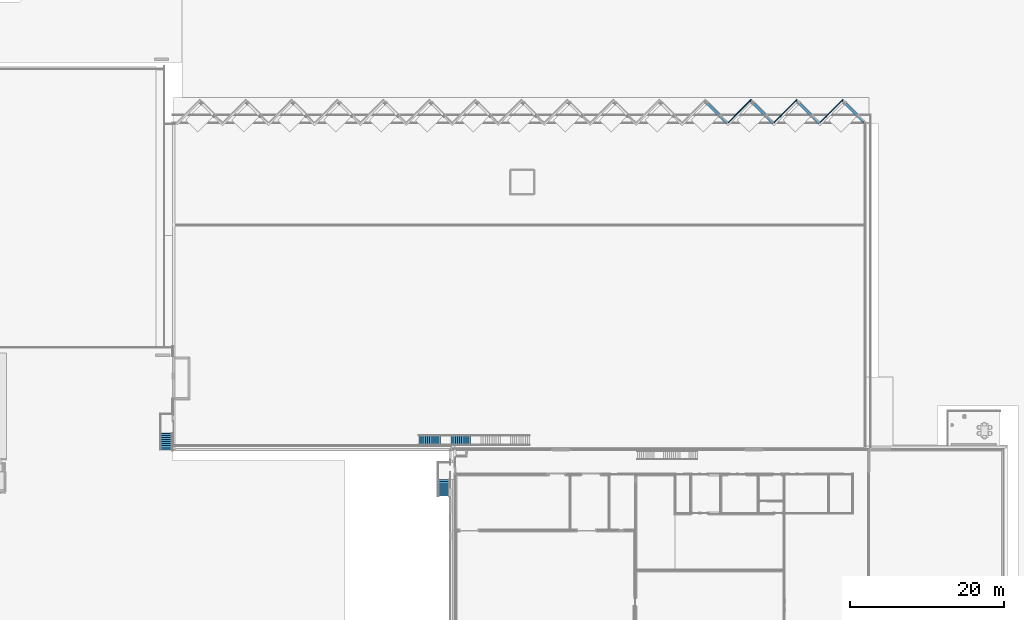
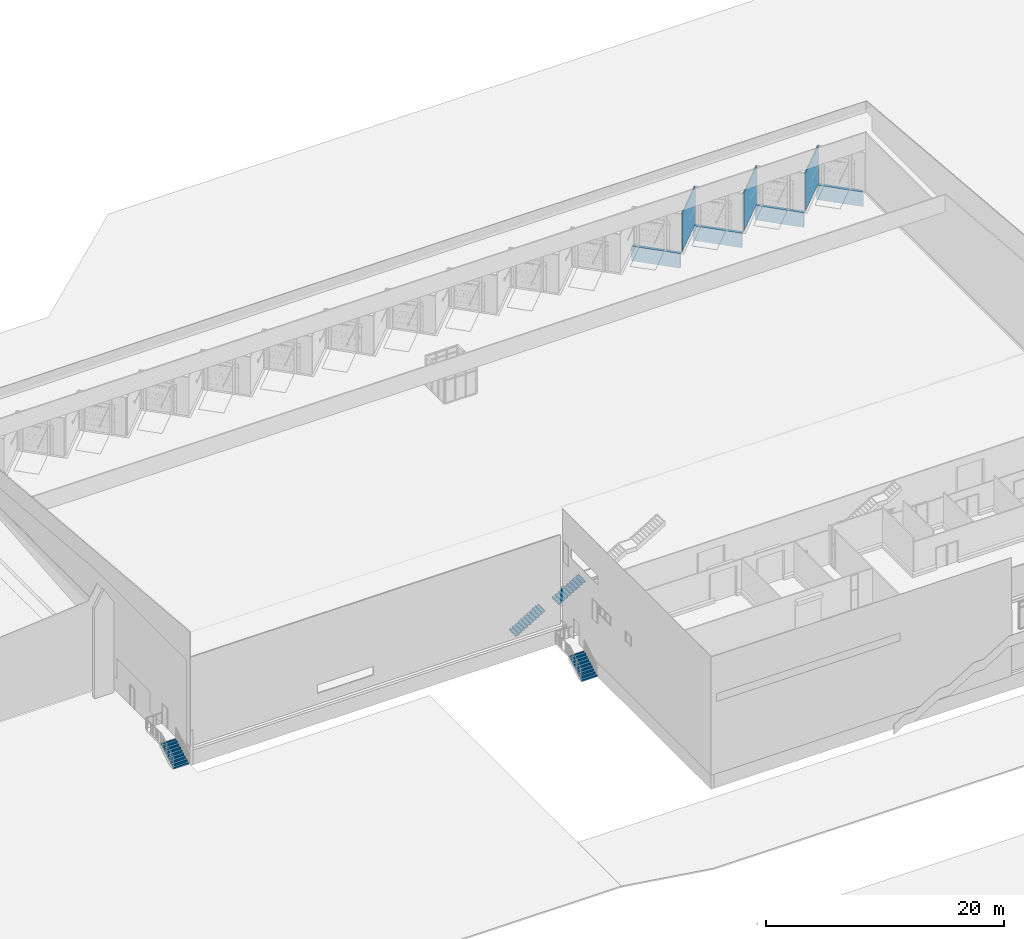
# One storey, part 53 of 64: 7 walls, 4 stair flights, 3 elements without a shape of their own.
"""IFC2X3 building model written with IfcOpenShell, lengths in millimetres."""

from ifc_helpers import new_model, entity, si_unit, converted_unit, derived_unit, direction, frame, frame_2d, origin, origin_2d_with_axis, place, context, subcontext, project, spatial, polyline, rectangle, outline, extrude, material, layer, layer_set, layer_usage, type_object, element, aggregate, save


model = new_model("IFC2X3")

# Units and contexts
model_context = context("Model", 3, precision=0.01, world=origin(), true_north=direction((4.05803320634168e-15, -1.0)))
body_context = subcontext(model_context, "Body", "Model", "MODEL_VIEW")
ifc_project = project(units=[si_unit("LENGTHUNIT", "METRE", prefix="MILLI"), si_unit("AREAUNIT", "SQUARE_METRE"), si_unit("VOLUMEUNIT", "CUBIC_METRE"), converted_unit("PLANEANGLEUNIT", "DEGREE", entity("IfcRatioMeasure", 0.0174532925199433), si_unit("PLANEANGLEUNIT", "RADIAN"), dimensions=[0, 0, 0, 0, 0, 0, 0]), si_unit("MASSUNIT", "GRAM", prefix="KILO"), derived_unit("MASSDENSITYUNIT", [(si_unit("MASSUNIT", "GRAM", prefix="KILO"), 1), (si_unit("LENGTHUNIT", "METRE"), -3)]), si_unit("TIMEUNIT", "SECOND"), si_unit("FREQUENCYUNIT", "HERTZ"), si_unit("THERMODYNAMICTEMPERATUREUNIT", "DEGREE_CELSIUS"), derived_unit("THERMALTRANSMITTANCEUNIT", [(si_unit("MASSUNIT", "GRAM", prefix="KILO"), 1), (si_unit("THERMODYNAMICTEMPERATUREUNIT", "KELVIN"), -1), (si_unit("TIMEUNIT", "SECOND"), -3)]), derived_unit("VOLUMETRICFLOWRATEUNIT", [(si_unit("LENGTHUNIT", "METRE"), 3), (si_unit("TIMEUNIT", "SECOND"), -1)]), si_unit("ELECTRICCURRENTUNIT", "AMPERE"), si_unit("ELECTRICVOLTAGEUNIT", "VOLT"), si_unit("POWERUNIT", "WATT"), si_unit("FORCEUNIT", "NEWTON", prefix="KILO"), si_unit("ILLUMINANCEUNIT", "LUX"), si_unit("LUMINOUSFLUXUNIT", "LUMEN"), si_unit("LUMINOUSINTENSITYUNIT", "CANDELA"), derived_unit("USERDEFINED", [(si_unit("MASSUNIT", "GRAM", prefix="KILO"), -1), (si_unit("LENGTHUNIT", "METRE"), -2), (si_unit("TIMEUNIT", "SECOND"), 3), (si_unit("LUMINOUSFLUXUNIT", "LUMEN"), 1)]), derived_unit("LINEARVELOCITYUNIT", [(si_unit("LENGTHUNIT", "METRE"), 1), (si_unit("TIMEUNIT", "SECOND"), -1)]), si_unit("PRESSUREUNIT", "PASCAL"), derived_unit("USERDEFINED", [(si_unit("LENGTHUNIT", "METRE"), -2), (si_unit("MASSUNIT", "GRAM", prefix="KILO"), 1), (si_unit("TIMEUNIT", "SECOND"), -2)])], contexts=[model_context])

# Site, building, storey
site_placement = place(None, frame((927466.849349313, 583801.882853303, 0.0), z_axis=(0.0, 0.0, 1.0), x_axis=(-1.0, 0.0, 0.0)))
site = spatial("IfcSite", under=ifc_project, at=site_placement, Name="Surface", CompositionType="ELEMENT")
building_placement = place(site_placement, origin())
building = spatial("IfcBuilding", under=site, at=building_placement, CompositionType="ELEMENT")
storey_placement = place(building_placement, frame((0.0, 0.0, 44170.0)))
storey = spatial("IfcBuildingStorey", under=building, at=storey_placement, Name="Ground FFL", CompositionType="ELEMENT", Elevation=44170.0)

# Walls
ifc_material_1 = material(Name="Isopenal")
ifc_layer_1 = layer(ifc_material_1, 100.0)
ifc_layer_set_1 = layer_set([ifc_layer_1], Name="Basic Wall:Isopanel")
ifc_layer_usage_1 = layer_usage(ifc_layer_set_1, "AXIS2", "POSITIVE", -50.0)
wall_type_1 = type_object("IfcWallType", Name="Basic Wall:Isopanel", PredefinedType="STANDARD", material=ifc_layer_set_1)
wall_1_placement = place(storey_placement, frame((-119989.085156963, -33638.9669325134, 0.0), z_axis=(0.0, 0.0, 1.0), x_axis=(0.707106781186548, 0.707106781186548, 0.0)))
element("IfcWallStandardCase", 1, at=wall_1_placement, inside=storey, type_object=wall_type_1, material=ifc_layer_usage_1, Name="Basic Wall:Isopanel", ObjectType="Basic Wall:Isopanel", context=body_context, shape_type="SweptSolid", body=[
    extrude(rectangle(XDim=4232.26267936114, YDim=99.9999999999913, at=frame_2d((2116.13133968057, 3.5527136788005e-15), x_axis=(-1.0, 0.0))), origin(), (0.0, 0.0, 1.0), 3910.35154955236),
])
ifc_layer_usage_2 = layer_usage(ifc_layer_set_1, "AXIS2", "POSITIVE", -50.0)
wall_2_placement = place(storey_placement, frame((-125974.408437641, -33638.9669325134, 0.0), z_axis=(0.0, 0.0, 1.0), x_axis=(0.707106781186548, 0.707106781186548, 0.0)))
element("IfcWallStandardCase", 2, at=wall_2_placement, inside=storey, type_object=wall_type_1, material=ifc_layer_usage_2, Name="Basic Wall:Isopanel", ObjectType="Basic Wall:Isopanel", context=body_context, shape_type="SweptSolid", body=[
    extrude(rectangle(XDim=4232.26267936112, YDim=99.9999999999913, at=frame_2d((2116.13133968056, 3.5527136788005e-15), x_axis=(-1.0, 0.0))), origin(), (0.0, 0.0, 1.0), 3910.35154955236),
])
ifc_layer_usage_3 = layer_usage(ifc_layer_set_1, "AXIS2", "POSITIVE", -50.0)
wall_3_placement = place(storey_placement, frame((-131959.731718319, -33638.9669325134, 0.0), z_axis=(0.0, 0.0, 1.0), x_axis=(0.707106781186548, 0.707106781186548, 0.0)))
element("IfcWallStandardCase", 3, at=wall_3_placement, inside=storey, type_object=wall_type_1, material=ifc_layer_usage_3, Name="Basic Wall:Isopanel", ObjectType="Basic Wall:Isopanel", context=body_context, shape_type="SweptSolid", body=[
    extrude(rectangle(XDim=4232.26267936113, YDim=99.9999999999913, at=frame_2d((2116.13133968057, -4.60076421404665e-12), x_axis=(-1.0, 0.0))), origin(), (0.0, 0.0, 1.0), 3910.35154955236),
])
ifc_material_2 = material(Name="conc bund")
ifc_layer_2 = layer(ifc_material_2, 300.0)
ifc_layer_set_2 = layer_set([ifc_layer_2], Name="Basic Wall:300 bund wall")
ifc_layer_usage_4 = layer_usage(ifc_layer_set_2, "AXIS2", "NEGATIVE", 150.0)
wall_type_2 = type_object("IfcWallType", Name="Basic Wall:300 bund wall", PredefinedType="STANDARD", material=ifc_layer_set_2)
wall_4_placement = place(storey_placement, frame((-131818.310362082, -33568.2562543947, -1500.0), z_axis=(0.0, 0.0, 1.0), x_axis=(-0.70710678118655, 0.707106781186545, 0.0)))
element("IfcWallStandardCase", 4, at=wall_4_placement, inside=storey, type_object=wall_type_2, material=ifc_layer_usage_4, Name="Basic Wall:300 bund wall", ObjectType="Basic Wall:300 bund wall", context=body_context, shape_type="SweptSolid", body=[
    extrude(outline(polyline([(-1817.86127473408, -1648.15564724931), (-1393.59720602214, -1648.15564724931), (1282.61819460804, 1028.05975338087), (1070.48616025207, 1240.19178773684), (858.354125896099, 1028.05975338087), (-1817.86127473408, -1648.15564724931)])), frame((1633.89604616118, -30.0, 0.0), z_axis=(0.0, 0.0, 1.0), x_axis=(-0.707106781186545, 0.70710678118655, 0.0)), (0.0, 0.0, 1.0), 1500.0),
])
ifc_layer_usage_5 = layer_usage(ifc_layer_set_2, "AXIS2", "NEGATIVE", 150.0)
wall_5_placement = place(storey_placement, frame((-125832.987081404, -33568.2562543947, -1500.0), z_axis=(0.0, 0.0, 1.0), x_axis=(-0.70710678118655, 0.707106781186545, 0.0)))
element("IfcWallStandardCase", 5, at=wall_5_placement, inside=storey, type_object=wall_type_2, material=ifc_layer_usage_5, Name="Basic Wall:300 bund wall", ObjectType="Basic Wall:300 bund wall", context=body_context, shape_type="SweptSolid", body=[
    extrude(rectangle(XDim=4232.26267936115, YDim=299.999999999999, at=frame_2d((2116.13133968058, 5.61328761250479e-12), x_axis=(-1.0, 0.0))), origin(), (0.0, 0.0, 1.0), 1500.00000000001),
])
ifc_layer_usage_6 = layer_usage(ifc_layer_set_2, "AXIS2", "NEGATIVE", 150.0)
wall_6_placement = place(storey_placement, frame((-119847.663800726, -33568.2562543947, -1500.0), z_axis=(0.0, 0.0, 1.0), x_axis=(-0.70710678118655, 0.707106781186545, 0.0)))
element("IfcWallStandardCase", 6, at=wall_6_placement, inside=storey, type_object=wall_type_2, material=ifc_layer_usage_6, Name="Basic Wall:300 bund wall", ObjectType="Basic Wall:300 bund wall", context=body_context, shape_type="SweptSolid", body=[
    extrude(rectangle(XDim=4232.26267936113, YDim=299.999999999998, at=frame_2d((2116.13133968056, -6.60804744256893e-12), x_axis=(-1.0, 0.0))), origin(), (0.0, 0.0, 1.0), 1500.00000000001),
])
ifc_layer_usage_7 = layer_usage(ifc_layer_set_2, "AXIS2", "NEGATIVE", 150.0)
wall_7_placement = place(storey_placement, frame((-113862.340520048, -33568.2562543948, -1500.0), z_axis=(0.0, 0.0, 1.0), x_axis=(-0.70710678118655, 0.707106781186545, 0.0)))
element("IfcWallStandardCase", 7, at=wall_7_placement, inside=storey, type_object=wall_type_2, material=ifc_layer_usage_7, Name="Basic Wall:300 bund wall", ObjectType="Basic Wall:300 bund wall", context=body_context, shape_type="SweptSolid", body=[
    extrude(rectangle(XDim=4232.26267936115, YDim=299.999999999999, at=frame_2d((2116.13133968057, -6.60804744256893e-12), x_axis=(-1.0, 0.0))), origin(), (0.0, 0.0, 1.0), 1500.00000000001),
])

# Stair, stair flight
stair_1_placement = place(storey_placement, origin())
stair_1 = element("IfcStair", 8, at=stair_1_placement, inside=storey, Name="Assembled Stair:Stair", ObjectType="Assembled Stair:170mm max riser 270mm going", ShapeType="NOTDEFINED")
stair_flight_1_placement = place(stair_1_placement, origin())
stair_flight_1 = element("IfcStairFlight", 9, at=stair_flight_1_placement, Name="Assembled Stair:Stair:371358 Run 1", ObjectType="Assembled Stair:170mm max riser 270mm going", NumberOfRiser=9, NumberOfTreads=8, RiserHeight=0.510352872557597, TreadLength=0.885826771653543, context=body_context, shape_type="SweptSolid", body=[
    extrude(rectangle(XDim=1500.00000000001, YDim=12.4999999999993, at=frame_2d((0.0, -1.0831335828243e-12), x_axis=(1.0, 0.0))), frame((-43799.0423298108, 11970.9308321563, -1400.0)), (0.0, 0.0, 1.0), 105.55555555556),
    extrude(rectangle(XDim=269.999999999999, YDim=1500.00000000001, at=origin_2d_with_axis()), frame((-43799.0423298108, 11842.1808321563, -1294.44444444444), z_axis=(0.0, 0.0, 1.0), x_axis=(0.0, 1.0, 0.0)), (0.0, 0.0, 1.0), 49.9999999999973),
    extrude(rectangle(XDim=1500.00000000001, YDim=12.4999999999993, at=frame_2d((0.0, -1.0831335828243e-12), x_axis=(1.0, 0.0))), frame((-43799.0423298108, 11700.9308321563, -1294.44444444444)), (0.0, 0.0, 1.0), 155.555555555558),
    extrude(rectangle(XDim=270.000000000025, YDim=1500.00000000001, at=frame_2d((-1.29887212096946e-11, 0.0), x_axis=(1.0, 0.0))), frame((-43799.0423298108, 11572.1808321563, -1138.88888888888), z_axis=(0.0, 0.0, 1.0), x_axis=(0.0, 1.0, 0.0)), (0.0, 0.0, 1.0), 49.9999999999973),
    extrude(rectangle(XDim=1500.00000000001, YDim=12.4999999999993, at=frame_2d((0.0, -1.0831335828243e-12), x_axis=(1.0, 0.0))), frame((-43799.0423298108, 11430.9308321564, -1138.88888888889)), (0.0, 0.0, 1.0), 155.555555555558),
    extrude(rectangle(XDim=270.000000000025, YDim=1500.00000000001, at=frame_2d((-1.08286712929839e-11, 0.0), x_axis=(1.0, 0.0))), frame((-43799.0423298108, 11302.1808321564, -983.333333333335), z_axis=(0.0, 0.0, 1.0), x_axis=(0.0, 1.0, 0.0)), (0.0, 0.0, 1.0), 49.9999999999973),
    extrude(rectangle(XDim=1500.00000000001, YDim=12.4999999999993, at=frame_2d((0.0, -1.0831335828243e-12), x_axis=(1.0, 0.0))), frame((-43799.0423298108, 11160.9308321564, -983.333333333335)), (0.0, 0.0, 1.0), 155.555555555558),
    extrude(rectangle(XDim=270.000000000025, YDim=1500.00000000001, at=frame_2d((-1.08286712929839e-11, 0.0), x_axis=(1.0, 0.0))), frame((-43799.0423298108, 11032.1808321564, -827.777777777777), z_axis=(0.0, 0.0, 1.0), x_axis=(0.0, 1.0, 0.0)), (0.0, 0.0, 1.0), 49.9999999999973),
    extrude(rectangle(XDim=1500.00000000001, YDim=12.4999999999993, at=frame_2d((0.0, -1.0831335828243e-12), x_axis=(1.0, 0.0))), frame((-43799.0423298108, 10890.9308321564, -827.777777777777)), (0.0, 0.0, 1.0), 155.555555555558),
    extrude(rectangle(XDim=270.000000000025, YDim=1500.00000000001, at=frame_2d((-1.29887212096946e-11, 0.0), x_axis=(1.0, 0.0))), frame((-43799.0423298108, 10762.1808321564, -672.22222222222), z_axis=(0.0, 0.0, 1.0), x_axis=(0.0, 1.0, 0.0)), (0.0, 0.0, 1.0), 49.9999999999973),
    extrude(rectangle(XDim=1500.00000000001, YDim=12.4999999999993, at=frame_2d((0.0, -1.0831335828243e-12), x_axis=(1.0, 0.0))), frame((-43799.0423298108, 10620.9308321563, -672.222222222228)), (0.0, 0.0, 1.0), 155.555555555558),
    extrude(rectangle(XDim=270.000000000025, YDim=1500.00000000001, at=frame_2d((-1.08286712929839e-11, 0.0), x_axis=(1.0, 0.0))), frame((-43799.0423298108, 10492.1808321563, -516.66666666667), z_axis=(0.0, 0.0, 1.0), x_axis=(0.0, 1.0, 0.0)), (0.0, 0.0, 1.0), 49.9999999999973),
    extrude(rectangle(XDim=1500.00000000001, YDim=12.4999999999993, at=frame_2d((0.0, -1.0831335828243e-12), x_axis=(1.0, 0.0))), frame((-43799.0423298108, 10350.9308321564, -516.66666666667)), (0.0, 0.0, 1.0), 155.555555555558),
    extrude(rectangle(XDim=270.000000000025, YDim=1500.00000000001, at=frame_2d((-1.29887212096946e-11, 0.0), x_axis=(1.0, 0.0))), frame((-43799.0423298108, 10222.1808321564, -361.111111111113), z_axis=(0.0, 0.0, 1.0), x_axis=(0.0, 1.0, 0.0)), (0.0, 0.0, 1.0), 49.9999999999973),
    extrude(rectangle(XDim=1500.00000000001, YDim=12.4999999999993, at=frame_2d((0.0, 1.0831335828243e-12), x_axis=(1.0, 0.0))), frame((-43799.0423298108, 10080.9308321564, -361.111111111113)), (0.0, 0.0, 1.0), 155.555555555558),
    extrude(rectangle(XDim=1500.00000000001, YDim=12.4999999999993, at=frame_2d((0.0, 1.0831335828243e-12), x_axis=(1.0, 0.0))), frame((-43799.0423298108, 9810.93083215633, -205.555555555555)), (0.0, 0.0, 1.0), 155.555555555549),
    extrude(rectangle(XDim=270.000000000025, YDim=1500.00000000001, at=frame_2d((-1.29887212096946e-11, 0.0), x_axis=(1.0, 0.0))), frame((-43799.0423298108, 9952.18083215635, -205.555555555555), z_axis=(0.0, 0.0, 1.0), x_axis=(0.0, 1.0, 0.0)), (0.0, 0.0, 1.0), 49.9999999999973),
])
aggregate(stair_1, [stair_flight_1])

# Stair, stair flights
stair_2_placement = place(storey_placement, origin())
stair_2 = element("IfcStair", 10, at=stair_2_placement, inside=storey, Name="Assembled Stair:Stair", ObjectType="Assembled Stair:190mm max riser 250mm going", ShapeType="NOTDEFINED")
stair_flight_2_placement = place(stair_2_placement, origin())
stair_flight_2 = element("IfcStairFlight", 11, at=stair_flight_2_placement, Name="Assembled Stair:Stair:516542 Run 3", ObjectType="Assembled Stair:190mm max riser 250mm going", NumberOfRiser=10, NumberOfTreads=9, RiserHeight=0.548708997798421, TreadLength=0.918635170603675, context=body_context, shape_type="SweptSolid", body=[
    extrude(rectangle(XDim=1200.0, YDim=12.5000000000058, at=origin_2d_with_axis()), frame((-80883.3907976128, 10739.2777512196, 1789.71152781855), z_axis=(0.0, 0.0, 1.0), x_axis=(0.0, -1.0, 0.0)), (0.0, 0.0, 1.0), 167.246502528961),
    extrude(rectangle(XDim=280.000000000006, YDim=1200.0, at=origin_2d_with_axis()), frame((-81017.1407976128, 10739.2777512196, 1956.95803034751)), (0.0, 0.0, 1.0), 49.9999999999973),
    extrude(rectangle(XDim=1200.0, YDim=12.5000000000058, at=frame_2d((0.0, 8.66329230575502e-12), x_axis=(1.0, 0.0))), frame((-81163.3907976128, 10739.2777512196, 1956.95803034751), z_axis=(0.0, 0.0, 1.0), x_axis=(0.0, -1.0, 0.0)), (0.0, 0.0, 1.0), 167.246502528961),
    extrude(rectangle(XDim=279.999999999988, YDim=1200.0, at=frame_2d((-8.65441052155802e-12, 1.08002495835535e-12), x_axis=(1.0, 0.0))), frame((-81297.1407976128, 10739.2777512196, 2124.20453287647)), (0.0, 0.0, 1.0), 49.9999999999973),
    extrude(rectangle(XDim=1200.0, YDim=12.5000000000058, at=frame_2d((0.0, 8.66329230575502e-12), x_axis=(1.0, 0.0))), frame((-81443.3907976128, 10739.2777512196, 2124.20453287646), z_axis=(0.0, 0.0, 1.0), x_axis=(0.0, -1.0, 0.0)), (0.0, 0.0, 1.0), 167.246502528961),
    extrude(rectangle(XDim=279.999999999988, YDim=1200.0, at=frame_2d((-8.65441052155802e-12, 1.08002495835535e-12), x_axis=(1.0, 0.0))), frame((-81577.1407976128, 10739.2777512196, 2291.45103540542)), (0.0, 0.0, 1.0), 49.9999999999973),
    extrude(rectangle(XDim=1200.0, YDim=12.5000000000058, at=frame_2d((0.0, 8.66329230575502e-12), x_axis=(1.0, 0.0))), frame((-81723.3907976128, 10739.2777512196, 2291.45103540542), z_axis=(0.0, 0.0, 1.0), x_axis=(0.0, -1.0, 0.0)), (0.0, 0.0, 1.0), 167.246502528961),
    extrude(rectangle(XDim=279.999999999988, YDim=1200.0, at=frame_2d((-8.65441052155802e-12, 1.08002495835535e-12), x_axis=(1.0, 0.0))), frame((-81857.1407976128, 10739.2777512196, 2458.69753793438)), (0.0, 0.0, 1.0), 49.9999999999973),
    extrude(rectangle(XDim=1200.0, YDim=12.5000000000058, at=frame_2d((0.0, -8.66329230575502e-12), x_axis=(1.0, 0.0))), frame((-82003.3907976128, 10739.2777512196, 2458.69753793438), z_axis=(0.0, 0.0, 1.0), x_axis=(0.0, -1.0, 0.0)), (0.0, 0.0, 1.0), 167.246502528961),
    extrude(rectangle(XDim=279.999999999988, YDim=1200.0, at=frame_2d((8.65441052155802e-12, 1.08002495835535e-12), x_axis=(1.0, 0.0))), frame((-82137.1407976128, 10739.2777512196, 2625.94404046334)), (0.0, 0.0, 1.0), 49.9999999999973),
    extrude(rectangle(XDim=1200.0, YDim=12.5000000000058, at=frame_2d((0.0, -8.66329230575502e-12), x_axis=(1.0, 0.0))), frame((-82283.3907976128, 10739.2777512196, 2625.94404046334), z_axis=(0.0, 0.0, 1.0), x_axis=(0.0, -1.0, 0.0)), (0.0, 0.0, 1.0), 167.246502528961),
    extrude(rectangle(XDim=279.999999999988, YDim=1200.0, at=frame_2d((8.65441052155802e-12, 1.08002495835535e-12), x_axis=(1.0, 0.0))), frame((-82417.1407976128, 10739.2777512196, 2793.1905429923)), (0.0, 0.0, 1.0), 49.9999999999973),
    extrude(rectangle(XDim=1200.0, YDim=12.5000000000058, at=frame_2d((0.0, -8.66329230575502e-12), x_axis=(1.0, 0.0))), frame((-82563.3907976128, 10739.2777512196, 2793.1905429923), z_axis=(0.0, 0.0, 1.0), x_axis=(0.0, -1.0, 0.0)), (0.0, 0.0, 1.0), 167.246502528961),
    extrude(rectangle(XDim=279.999999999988, YDim=1200.0, at=frame_2d((8.65441052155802e-12, 1.08002495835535e-12), x_axis=(1.0, 0.0))), frame((-82697.1407976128, 10739.2777512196, 2960.43704552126)), (0.0, 0.0, 1.0), 49.9999999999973),
    extrude(rectangle(XDim=1200.0, YDim=12.5000000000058, at=frame_2d((0.0, 8.66329230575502e-12), x_axis=(1.0, 0.0))), frame((-82843.3907976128, 10739.2777512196, 2960.43704552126), z_axis=(0.0, 0.0, 1.0), x_axis=(0.0, -1.0, 0.0)), (0.0, 0.0, 1.0), 167.246502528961),
    extrude(rectangle(XDim=279.999999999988, YDim=1200.0, at=frame_2d((-8.65441052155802e-12, -1.08002495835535e-12), x_axis=(1.0, 0.0))), frame((-82977.1407976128, 10739.2777512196, 3127.68354805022)), (0.0, 0.0, 1.0), 49.9999999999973),
    extrude(rectangle(XDim=1200.0, YDim=12.5000000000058, at=frame_2d((0.0, 8.66329230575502e-12), x_axis=(1.0, 0.0))), frame((-83123.3907976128, 10739.2777512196, 3127.68354805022), z_axis=(0.0, 0.0, 1.0), x_axis=(0.0, -1.0, 0.0)), (0.0, 0.0, 1.0), 167.246502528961),
    extrude(rectangle(XDim=1200.0, YDim=12.5000000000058, at=origin_2d_with_axis()), frame((-83403.3907976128, 10739.2777512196, 3294.93005057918), z_axis=(0.0, 0.0, 1.0), x_axis=(0.0, -1.0, 0.0)), (0.0, 0.0, 1.0), 167.246502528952),
    extrude(rectangle(XDim=279.999999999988, YDim=1200.0, at=frame_2d((-8.65441052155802e-12, -1.08002495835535e-12), x_axis=(1.0, 0.0))), frame((-83257.1407976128, 10739.2777512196, 3294.93005057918)), (0.0, 0.0, 1.0), 49.9999999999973),
])
stair_flight_3_placement = place(stair_2_placement, origin())
stair_flight_3 = element("IfcStairFlight", 12, at=stair_flight_3_placement, Name="Assembled Stair:Stair:516542 Run 4", ObjectType="Assembled Stair:190mm max riser 250mm going", NumberOfRiser=11, NumberOfTreads=10, RiserHeight=0.548708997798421, TreadLength=0.918635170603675, context=body_context, shape_type="SweptSolid", body=[
    extrude(rectangle(XDim=1200.0, YDim=12.4999999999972, at=frame_2d((0.0, -4.33164615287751e-12), x_axis=(1.0, 0.0))), frame((-76703.3907976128, 10739.2777512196, 0.0), z_axis=(0.0, 0.0, 1.0), x_axis=(0.0, -1.0, 0.0)), (0.0, 0.0, 1.0), 117.246502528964),
    extrude(rectangle(XDim=280.000000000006, YDim=1200.0, at=origin_2d_with_axis()), frame((-76837.1407976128, 10739.2777512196, 117.246502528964)), (0.0, 0.0, 1.0), 49.9999999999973),
    extrude(rectangle(XDim=1200.0, YDim=12.4999999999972, at=origin_2d_with_axis()), frame((-76983.3907976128, 10739.2777512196, 117.246502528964), z_axis=(0.0, 0.0, 1.0), x_axis=(0.0, -1.0, 0.0)), (0.0, 0.0, 1.0), 167.246502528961),
    extrude(rectangle(XDim=279.999999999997, YDim=1200.0, at=frame_2d((4.33431068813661e-12, 1.08002495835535e-12), x_axis=(1.0, 0.0))), frame((-77117.1407976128, 10739.2777512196, 284.493005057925)), (0.0, 0.0, 1.0), 49.9999999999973),
    extrude(rectangle(XDim=1200.0, YDim=12.4999999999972, at=frame_2d((0.0, -8.66284821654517e-12), x_axis=(1.0, 0.0))), frame((-77263.3907976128, 10739.2777512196, 284.493005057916), z_axis=(0.0, 0.0, 1.0), x_axis=(0.0, -1.0, 0.0)), (0.0, 0.0, 1.0), 167.246502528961),
    extrude(rectangle(XDim=279.999999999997, YDim=1200.0, at=frame_2d((4.33431068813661e-12, 1.08002495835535e-12), x_axis=(1.0, 0.0))), frame((-77397.1407976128, 10739.2777512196, 451.739507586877)), (0.0, 0.0, 1.0), 49.9999999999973),
    extrude(rectangle(XDim=1200.0, YDim=12.4999999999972, at=frame_2d((0.0, -8.66284821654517e-12), x_axis=(1.0, 0.0))), frame((-77543.3907976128, 10739.2777512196, 451.739507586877), z_axis=(0.0, 0.0, 1.0), x_axis=(0.0, -1.0, 0.0)), (0.0, 0.0, 1.0), 167.246502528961),
    extrude(rectangle(XDim=279.999999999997, YDim=1200.0, at=frame_2d((4.33431068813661e-12, 1.08002495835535e-12), x_axis=(1.0, 0.0))), frame((-77677.1407976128, 10739.2777512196, 618.986010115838)), (0.0, 0.0, 1.0), 49.9999999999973),
    extrude(rectangle(XDim=1200.0, YDim=12.4999999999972, at=origin_2d_with_axis()), frame((-77823.3907976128, 10739.2777512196, 618.986010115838), z_axis=(0.0, 0.0, 1.0), x_axis=(0.0, -1.0, 0.0)), (0.0, 0.0, 1.0), 167.246502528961),
    extrude(rectangle(XDim=279.999999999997, YDim=1200.0, at=frame_2d((4.33431068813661e-12, 1.08002495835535e-12), x_axis=(1.0, 0.0))), frame((-77957.1407976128, 10739.2777512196, 786.232512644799)), (0.0, 0.0, 1.0), 49.9999999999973),
    extrude(rectangle(XDim=1200.0, YDim=12.4999999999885, at=origin_2d_with_axis()), frame((-78103.3907976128, 10739.2777512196, 786.232512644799), z_axis=(0.0, 0.0, 1.0), x_axis=(0.0, -1.0, 0.0)), (0.0, 0.0, 1.0), 167.246502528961),
    extrude(rectangle(XDim=280.000000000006, YDim=1200.0, at=frame_2d((0.0, 1.08002495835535e-12), x_axis=(1.0, 0.0))), frame((-78237.1407976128, 10739.2777512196, 953.47901517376)), (0.0, 0.0, 1.0), 49.9999999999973),
    extrude(rectangle(XDim=1200.0, YDim=12.4999999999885, at=origin_2d_with_axis()), frame((-78383.3907976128, 10739.2777512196, 953.479015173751), z_axis=(0.0, 0.0, 1.0), x_axis=(0.0, -1.0, 0.0)), (0.0, 0.0, 1.0), 167.246502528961),
    extrude(rectangle(XDim=280.000000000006, YDim=1200.0, at=frame_2d((8.66862137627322e-12, 1.08002495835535e-12), x_axis=(1.0, 0.0))), frame((-78517.1407976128, 10739.2777512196, 1120.72551770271)), (0.0, 0.0, 1.0), 49.9999999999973),
    extrude(rectangle(XDim=1200.0, YDim=12.5000000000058, at=origin_2d_with_axis()), frame((-78663.3907976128, 10739.2777512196, 1120.72551770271), z_axis=(0.0, 0.0, 1.0), x_axis=(0.0, -1.0, 0.0)), (0.0, 0.0, 1.0), 167.246502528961),
    extrude(rectangle(XDim=279.999999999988, YDim=1200.0, at=frame_2d((0.0, 1.08002495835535e-12), x_axis=(1.0, 0.0))), frame((-78797.1407976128, 10739.2777512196, 1287.97202023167)), (0.0, 0.0, 1.0), 49.9999999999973),
    extrude(rectangle(XDim=1200.0, YDim=12.5000000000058, at=origin_2d_with_axis()), frame((-78943.3907976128, 10739.2777512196, 1287.97202023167), z_axis=(0.0, 0.0, 1.0), x_axis=(0.0, -1.0, 0.0)), (0.0, 0.0, 1.0), 167.246502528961),
    extrude(rectangle(XDim=279.999999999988, YDim=1200.0, at=frame_2d((0.0, -1.08002495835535e-12), x_axis=(1.0, 0.0))), frame((-79077.1407976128, 10739.2777512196, 1455.21852276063)), (0.0, 0.0, 1.0), 49.9999999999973),
    extrude(rectangle(XDim=1200.0, YDim=12.5000000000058, at=origin_2d_with_axis()), frame((-79223.3907976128, 10739.2777512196, 1455.21852276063), z_axis=(0.0, 0.0, 1.0), x_axis=(0.0, -1.0, 0.0)), (0.0, 0.0, 1.0), 167.246502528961),
    extrude(rectangle(XDim=1200.0, YDim=12.5000000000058, at=origin_2d_with_axis()), frame((-79503.3907976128, 10739.2777512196, 1622.46502528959), z_axis=(0.0, 0.0, 1.0), x_axis=(0.0, -1.0, 0.0)), (0.0, 0.0, 1.0), 167.246502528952),
    extrude(rectangle(XDim=279.999999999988, YDim=1200.0, at=frame_2d((0.0, -1.08002495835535e-12), x_axis=(1.0, 0.0))), frame((-79357.1407976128, 10739.2777512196, 1622.46502528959)), (0.0, 0.0, 1.0), 49.9999999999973),
])
aggregate(stair_2, [stair_flight_2, stair_flight_3])

# Stair, stair flight
stair_3_placement = place(storey_placement, origin())
stair_3 = element("IfcStair", 13, at=stair_3_placement, inside=storey, Name="Assembled Stair:Stair", ObjectType="Assembled Stair:170mm max riser 270mm going", ShapeType="NOTDEFINED")
stair_flight_4_placement = place(stair_3_placement, origin())
stair_flight_4 = element("IfcStairFlight", 14, at=stair_flight_4_placement, Name="Assembled Stair:Stair:588793 Run 1", ObjectType="Assembled Stair:170mm max riser 270mm going", NumberOfRiser=9, NumberOfTreads=8, RiserHeight=0.510352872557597, TreadLength=0.885826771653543, context=body_context, shape_type="SweptSolid", body=[
    extrude(rectangle(XDim=1500.00000000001, YDim=12.4999999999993, at=frame_2d((0.0, 1.0831335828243e-12), x_axis=(1.0, 0.0))), frame((-79955.6913038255, 18011.2203266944, -1400.0)), (0.0, 0.0, 1.0), 105.55555555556),
    extrude(rectangle(XDim=269.999999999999, YDim=1500.00000000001, at=origin_2d_with_axis()), frame((-79955.6913038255, 17882.4703266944, -1294.44444444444), z_axis=(0.0, 0.0, 1.0), x_axis=(0.0, 1.0, 0.0)), (0.0, 0.0, 1.0), 49.9999999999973),
    extrude(rectangle(XDim=1500.00000000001, YDim=12.4999999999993, at=frame_2d((0.0, 1.0831335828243e-12), x_axis=(1.0, 0.0))), frame((-79955.6913038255, 17741.2203266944, -1294.44444444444)), (0.0, 0.0, 1.0), 155.555555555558),
    extrude(rectangle(XDim=270.000000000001, YDim=1500.00000000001, at=frame_2d((1.08002495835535e-12, 0.0), x_axis=(1.0, 0.0))), frame((-79955.6913038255, 17612.4703266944, -1138.88888888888), z_axis=(0.0, 0.0, 1.0), x_axis=(0.0, 1.0, 0.0)), (0.0, 0.0, 1.0), 49.9999999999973),
    extrude(rectangle(XDim=1500.00000000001, YDim=12.4999999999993, at=frame_2d((0.0, 1.0831335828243e-12), x_axis=(1.0, 0.0))), frame((-79955.6913038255, 17471.2203266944, -1138.88888888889)), (0.0, 0.0, 1.0), 155.555555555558),
    extrude(rectangle(XDim=270.000000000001, YDim=1500.00000000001, at=frame_2d((1.08002495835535e-12, 0.0), x_axis=(1.0, 0.0))), frame((-79955.6913038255, 17342.4703266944, -983.333333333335), z_axis=(0.0, 0.0, 1.0), x_axis=(0.0, 1.0, 0.0)), (0.0, 0.0, 1.0), 49.9999999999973),
    extrude(rectangle(XDim=1500.00000000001, YDim=12.4999999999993, at=frame_2d((0.0, 1.0831335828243e-12), x_axis=(1.0, 0.0))), frame((-79955.6913038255, 17201.2203266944, -983.333333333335)), (0.0, 0.0, 1.0), 155.555555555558),
    extrude(rectangle(XDim=270.000000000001, YDim=1500.00000000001, at=frame_2d((1.08002495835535e-12, 0.0), x_axis=(1.0, 0.0))), frame((-79955.6913038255, 17072.4703266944, -827.777777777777), z_axis=(0.0, 0.0, 1.0), x_axis=(0.0, 1.0, 0.0)), (0.0, 0.0, 1.0), 49.9999999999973),
    extrude(rectangle(XDim=1500.00000000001, YDim=12.4999999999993, at=frame_2d((0.0, 1.0831335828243e-12), x_axis=(1.0, 0.0))), frame((-79955.6913038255, 16931.2203266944, -827.777777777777)), (0.0, 0.0, 1.0), 155.555555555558),
    extrude(rectangle(XDim=270.000000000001, YDim=1500.00000000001, at=frame_2d((-1.08002495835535e-12, 0.0), x_axis=(1.0, 0.0))), frame((-79955.6913038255, 16802.4703266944, -672.22222222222), z_axis=(0.0, 0.0, 1.0), x_axis=(0.0, 1.0, 0.0)), (0.0, 0.0, 1.0), 49.9999999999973),
    extrude(rectangle(XDim=1500.00000000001, YDim=12.4999999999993, at=frame_2d((0.0, -1.0831335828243e-12), x_axis=(1.0, 0.0))), frame((-79955.6913038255, 16661.2203266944, -672.222222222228)), (0.0, 0.0, 1.0), 155.555555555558),
    extrude(rectangle(XDim=270.000000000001, YDim=1500.00000000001, at=frame_2d((1.08002495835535e-12, 0.0), x_axis=(1.0, 0.0))), frame((-79955.6913038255, 16532.4703266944, -516.66666666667), z_axis=(0.0, 0.0, 1.0), x_axis=(0.0, 1.0, 0.0)), (0.0, 0.0, 1.0), 49.9999999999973),
    extrude(rectangle(XDim=1500.00000000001, YDim=12.4999999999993, at=frame_2d((0.0, 1.0831335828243e-12), x_axis=(1.0, 0.0))), frame((-79955.6913038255, 16391.2203266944, -516.66666666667)), (0.0, 0.0, 1.0), 155.555555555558),
    extrude(rectangle(XDim=270.000000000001, YDim=1500.00000000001, at=frame_2d((-1.08002495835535e-12, 0.0), x_axis=(1.0, 0.0))), frame((-79955.6913038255, 16262.4703266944, -361.111111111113), z_axis=(0.0, 0.0, 1.0), x_axis=(0.0, 1.0, 0.0)), (0.0, 0.0, 1.0), 49.9999999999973),
    extrude(rectangle(XDim=1500.00000000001, YDim=12.4999999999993, at=frame_2d((0.0, -1.0831335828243e-12), x_axis=(1.0, 0.0))), frame((-79955.6913038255, 16121.2203266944, -361.111111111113)), (0.0, 0.0, 1.0), 155.555555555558),
    extrude(rectangle(XDim=1500.00000000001, YDim=12.4999999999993, at=frame_2d((0.0, -1.0831335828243e-12), x_axis=(1.0, 0.0))), frame((-79955.6913038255, 15851.2203266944, -205.555555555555)), (0.0, 0.0, 1.0), 155.555555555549),
    extrude(rectangle(XDim=270.000000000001, YDim=1500.00000000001, at=frame_2d((1.08002495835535e-12, 0.0), x_axis=(1.0, 0.0))), frame((-79955.6913038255, 15992.4703266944, -205.555555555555), z_axis=(0.0, 0.0, 1.0), x_axis=(0.0, 1.0, 0.0)), (0.0, 0.0, 1.0), 49.9999999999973),
])
aggregate(stair_3, [stair_flight_4])

save(model, "model.ifc")
